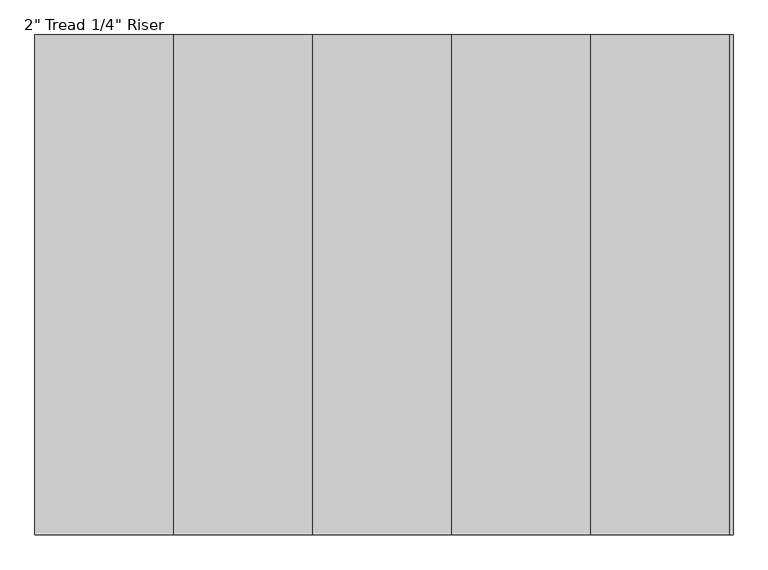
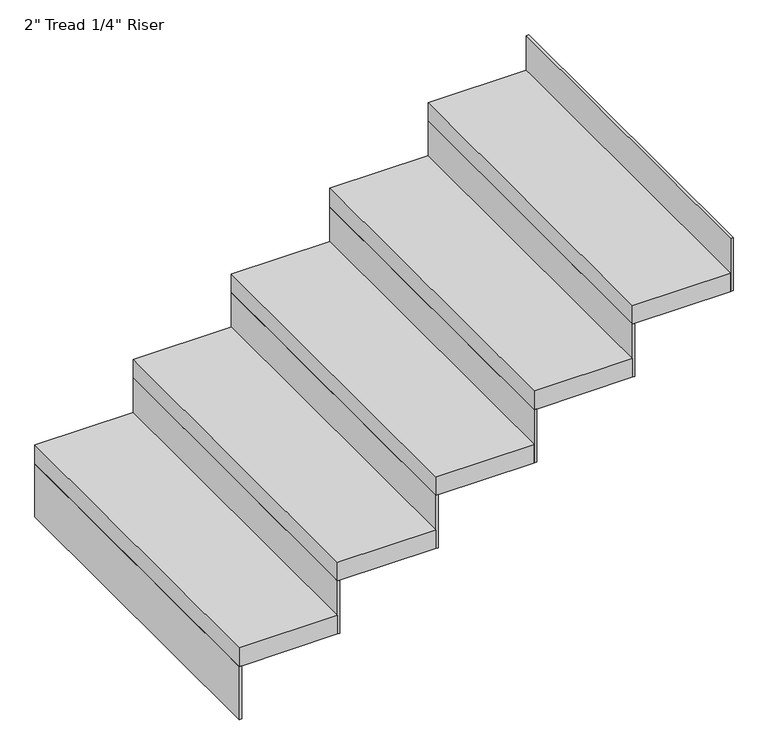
"""IFC4 building model written with IfcOpenShell, lengths in millimetres: stair flight geometry."""

from ifc_helpers import new_model, si_unit, frame, origin, place, context, project, spatial, polyline, outline, extrude, source, transform, mapped, element, save


def stair_flight_d7e3c5c4(model_context):
    return source(origin(), model_context, "Body", "SweptSolid", [
        extrude(outline(polyline([(113629.3286089, 15846.0395941), (113622.9786089, 15846.0395941), (113622.9786089, 16760.4395941), (113629.3286089, 16760.4395941), (113629.3286089, 15846.0395941)])), frame((0.0, 0.0, 2126.3428571), z_axis=(0.0, 0.0, 1.0), x_axis=(1.0, 0.0, 0.0)), (0.0, 0.0, 1.0), 145.1428571),
        extrude(outline(polyline([(113876.9786089, 16760.4395941), (113876.9786089, 15846.0395941), (113622.9786089, 15846.0395941), (113622.9786089, 16760.4395941), (113876.9786089, 16760.4395941)])), frame((0.0, 0.0, 2271.4857143), z_axis=(0.0, 0.0, 1.0), x_axis=(1.0, 0.0, 0.0)), (0.0, 0.0, 1.0), 50.8),
        extrude(outline(polyline([(113883.3286089, 15846.0395941), (113876.9786089, 15846.0395941), (113876.9786089, 16760.4395941), (113883.3286089, 16760.4395941), (113883.3286089, 15846.0395941)])), frame((0.0, 0.0, 2271.4857143), z_axis=(0.0, 0.0, 1.0), x_axis=(1.0, 0.0, 0.0)), (0.0, 0.0, 1.0), 145.1428571),
        extrude(outline(polyline([(114130.9786089, 16760.4395941), (114130.9786089, 15846.0395941), (113876.9786089, 15846.0395941), (113876.9786089, 16760.4395941), (114130.9786089, 16760.4395941)])), frame((0.0, 0.0, 2416.6285714), z_axis=(0.0, 0.0, 1.0), x_axis=(1.0, 0.0, 0.0)), (0.0, 0.0, 1.0), 50.8),
        extrude(outline(polyline([(114137.3286089, 15846.0395941), (114130.9786089, 15846.0395941), (114130.9786089, 16760.4395941), (114137.3286089, 16760.4395941), (114137.3286089, 15846.0395941)])), frame((0.0, 0.0, 2416.6285714), z_axis=(0.0, 0.0, 1.0), x_axis=(1.0, 0.0, 0.0)), (0.0, 0.0, 1.0), 145.1428571),
        extrude(outline(polyline([(114384.9786089, 16760.4395941), (114384.9786089, 15846.0395941), (114130.9786089, 15846.0395941), (114130.9786089, 16760.4395941), (114384.9786089, 16760.4395941)])), frame((0.0, 0.0, 2561.7714286), z_axis=(0.0, 0.0, 1.0), x_axis=(1.0, 0.0, 0.0)), (0.0, 0.0, 1.0), 50.8),
        extrude(outline(polyline([(114391.3286089, 15846.0395941), (114384.9786089, 15846.0395941), (114384.9786089, 16760.4395941), (114391.3286089, 16760.4395941), (114391.3286089, 15846.0395941)])), frame((0.0, 0.0, 2561.7714286), z_axis=(0.0, 0.0, 1.0), x_axis=(1.0, 0.0, 0.0)), (0.0, 0.0, 1.0), 145.1428571),
        extrude(outline(polyline([(114638.9786089, 16760.4395941), (114638.9786089, 15846.0395941), (114384.9786089, 15846.0395941), (114384.9786089, 16760.4395941), (114638.9786089, 16760.4395941)])), frame((0.0, 0.0, 2706.9142857), z_axis=(0.0, 0.0, 1.0), x_axis=(1.0, 0.0, 0.0)), (0.0, 0.0, 1.0), 50.8),
        extrude(outline(polyline([(114645.3286089, 15846.0395941), (114638.9786089, 15846.0395941), (114638.9786089, 16760.4395941), (114645.3286089, 16760.4395941), (114645.3286089, 15846.0395941)])), frame((0.0, 0.0, 2706.9142857), z_axis=(0.0, 0.0, 1.0), x_axis=(1.0, 0.0, 0.0)), (0.0, 0.0, 1.0), 145.1428571),
        extrude(outline(polyline([(114899.3286089, 15846.0395941), (114892.9786089, 15846.0395941), (114892.9786089, 16760.4395941), (114899.3286089, 16760.4395941), (114899.3286089, 15846.0395941)])), frame((0.0, 0.0, 2852.0571429), z_axis=(0.0, 0.0, 1.0), x_axis=(1.0, 0.0, 0.0)), (0.0, 0.0, 1.0), 145.1428571),
        extrude(outline(polyline([(114892.9786089, 16760.4395941), (114892.9786089, 15846.0395941), (114638.9786089, 15846.0395941), (114638.9786089, 16760.4395941), (114892.9786089, 16760.4395941)])), frame((0.0, 0.0, 2852.0571429), z_axis=(0.0, 0.0, 1.0), x_axis=(1.0, 0.0, 0.0)), (0.0, 0.0, 1.0), 50.8),
    ])


if __name__ == "__main__":
    model = new_model("IFC4")
    model_context = context("Model", 3, world=origin())
    ifc_project = project(units=[si_unit("LENGTHUNIT", "METRE", prefix="MILLI")], contexts=[model_context])
    site = spatial("IfcSite", under=ifc_project)
    building = spatial("IfcBuilding", under=site)
    placement = place(None, origin())
    stair_flight_shape = stair_flight_d7e3c5c4(model_context)
    element("IfcStairFlight", 1, ObjectType="2\" Tread 1/4\" Riser", at=placement, inside=building, context=model_context, shape_type="MappedRepresentation", body=[
        mapped(stair_flight_shape, transform((0.0, 0.0, 0.0), x_axis=(1.0, 0.0, 0.0), y_axis=(0.0, 1.0, 0.0), z_axis=(0.0, 0.0, 1.0))),
    ])
    save(model, "model.ifc")
